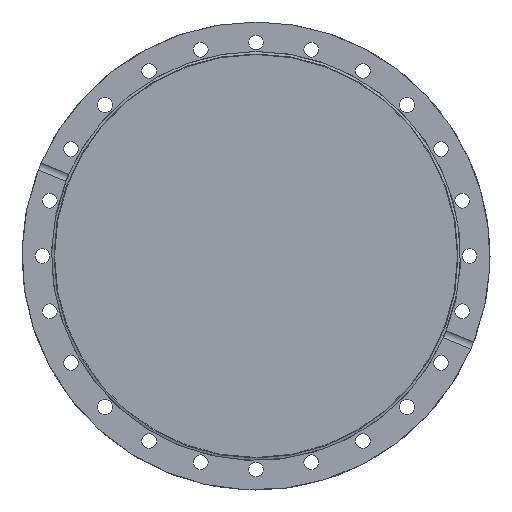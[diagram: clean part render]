
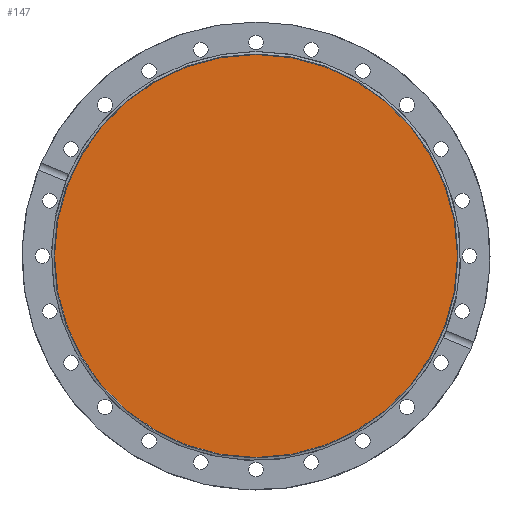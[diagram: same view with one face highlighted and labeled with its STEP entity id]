
A CAD part, left-side view. The second image highlights one B-rep face of the part: STEP entity #147.
In plain terms, the highlighted planar face has unit normal (-1, 0, 0).
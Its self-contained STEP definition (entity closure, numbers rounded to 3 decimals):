
#147 = ADVANCED_FACE( '', ( #355 ), #356, .F. );
#355 = FACE_OUTER_BOUND( '', #547, .T. );
#356 = PLANE( '', #548 );
#547 = EDGE_LOOP( '', ( #811 ) );
#548 = AXIS2_PLACEMENT_3D( '', #812, #813, #814 );
#811 = ORIENTED_EDGE( '', *, *, #869, .T. );
#812 = CARTESIAN_POINT( '', ( -23.3, 0., 109.335 ) );
#813 = DIRECTION( '', ( 1., 0., 0. ) );
#814 = DIRECTION( '', ( 0., 1., 0. ) );
#869 = EDGE_CURVE( '', #1007, #1007, #1008, .T. );
#1007 = VERTEX_POINT( '', #1218 );
#1008 = CIRCLE( '', #1219, 109.335 );
#1218 = CARTESIAN_POINT( '', ( -23.3, 0., 109.335 ) );
#1219 = AXIS2_PLACEMENT_3D( '', #1412, #1413, #1414 );
#1412 = CARTESIAN_POINT( '', ( -23.3, 0., 0. ) );
#1413 = DIRECTION( '', ( -1., 0., 0. ) );
#1414 = DIRECTION( '', ( 0., 0., 1. ) );
